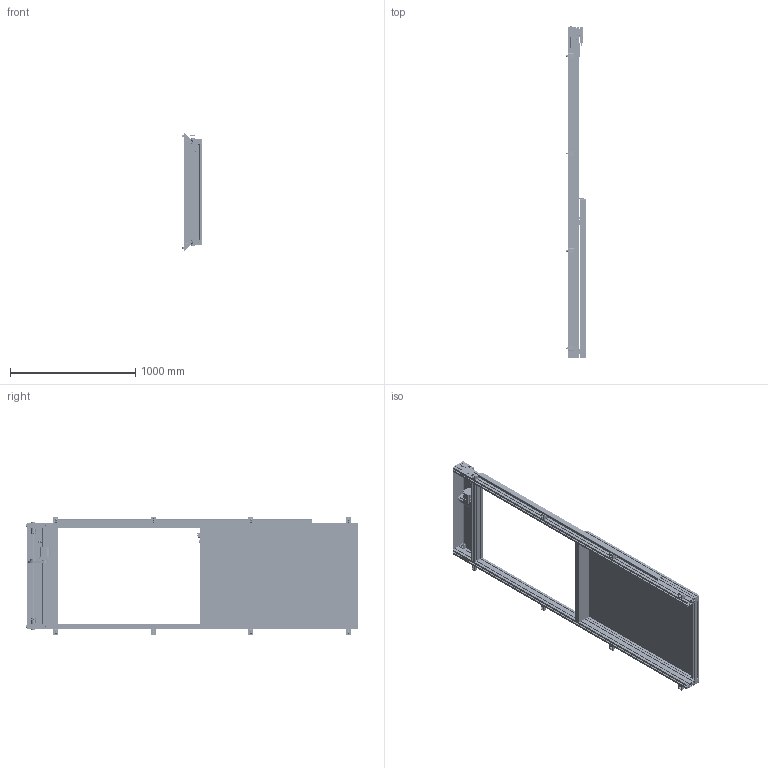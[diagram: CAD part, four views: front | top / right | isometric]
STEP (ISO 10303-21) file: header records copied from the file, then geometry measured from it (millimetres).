
FILE_DESCRIPTION(/* description */ (''),/* implementation_level */ '2;1');
FILE_NAME(/* name */ 'MT111323-1.stp',/* time_stamp */ '2024-04-05T08:11:13-04:00',/* author */ ('amoles'),/* organization */ (''),/* preprocessor_version */ 'ST-DEVELOPER v19.2',/* originating_system */ 'Autodesk Inventor 2024',/* authorisation */ '');
FILE_SCHEMA (('AUTOMOTIVE_DESIGN { 1 0 10303 214 3 1 1 }'));
Products named in the file (83): MT111323-1; SP060112-1-1 POST 45X90 UL; 21.1772 COUNTERWEIGHT 45; 21.1711 ; 21.1711 FIXING KIT FOR CHAIN COUNTERWEIGHTED SIDE RUBBER WASHER; 21.1123; SP060112-1 DOOR ASSY; SP060112-6 DOOR HORI; SP060112-4 DOOR VERT; SP060112-7 DOOR PANEL; 21.1712/9; 21.1506 ; 21.1330; 21.1712/1; 21.1712/9 ; 21.1712 DOOR CHAIN CLAMPING DEVICE CHAIN ANCHOR; 21.1713_1 CONNECTING LINK 04B; 21.1713_1 CONNECTING LINK 04B BODY WITH PINS; Combine3; 21.1713_1 CONNECTING LINK 04B CLIP; 21.1713 ; 21.1713 CHAIN; 21.9200 ; 21.9200 /1; 21.1237 ; 21.1320; 21.0020; 21.0020 POWER-LOCK SF SHORT BODY; 21.1492 POWER-LOCK SF TORX SCREW; 21.1301; 22.1004 END CAP 45X45 BLACK; END CAP DOWEL BLACK; 22.1004 END CAP 45X45 BLACK_1; 21.2308 Magnetic Plate S; 21.2308_Magnetic_Plate_S; 21.1501; 21.1310/2; MT111323-1_002; 21.1232 ; SP060112-1-2 45X32 UL HOR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
Assembly tree (138 placements, depth 6):
  MT111323-1
    SP060112-1-1 POST 45X90 UL  x2
    21.1772 COUNTERWEIGHT 45  x2
    21.1711   x2
      21.1712 DOOR CHAIN CLAMPING DEVICE CHAIN ANCHOR
      21.1711 FIXING KIT FOR CHAIN COUNTERWEIGHTED SIDE RUBBER WASHER
      21.1123
      21.1713_1 CONNECTING LINK 04B
        21.1713_1 CONNECTING LINK 04B BODY WITH PINS
        Combine3
        21.1713_1 CONNECTING LINK 04B CLIP
    SP060112-1 DOOR ASSY
      SP060112-4 DOOR VERT  x2
      SP060112-6 DOOR HORI  x2
      SP060112-7 DOOR PANEL
      21.1712/9  x2
        21.1330
        21.1712/1
          21.1712/9 
          21.1712 DOOR CHAIN CLAMPING DEVICE CHAIN ANCHOR
          21.1713_1 CONNECTING LINK 04B
            21.1713_1 CONNECTING LINK 04B BODY WITH PINS
            Combine3
            21.1713_1 CONNECTING LINK 04B CLIP
      21.9200   x4
        21.9200 /1
        21.1237 
        21.1320
      21.1713   x2
        21.1713 CHAIN
      22.1004 END CAP 45X45 BLACK  x4
        END CAP DOWEL BLACK
        22.1004 END CAP 45X45 BLACK_1
      21.0020  x2
        21.0020 POWER-LOCK SF SHORT BODY
        21.1492 POWER-LOCK SF TORX SCREW
        21.1301
      21.2308 Magnetic Plate S
        21.2308_Magnetic_Plate_S
        21.1310/2  x2
      MT111323-1_002
      21.1232   x2
    SP060112-1-2 45X32 UL HOR
    21.1774 CHAIN PULLEY 32_Custom
      MT111323-1_005
      MT020516-1_200
      6384K348  x2
      MT111323-1_201
      92908A240
      21.1500
      21.1029  x3
        21.1029/1
        21.1303
      91313A122
      2764K311_Servomotor Precision Flexible Shaft Coupling
    MT111323-1_003
    21.1349_7 ANGLE 45 GD-Z WITH CAP  x8
      21.1349 ANGLE 45 GD-Z
      21.1280 
      21.1127 
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Bounding box: 155.3 x 2651.14 x 940 mm (x, y, z)
Volume: 17501102.1 mm3; surface area: 13587541.5 mm2
Topology: 326 solids, 326 shells, 17279 faces, 48156 edges, 31867 vertices
Faces by surface type: plane 9020, cylinder 7017, cone 802, torus 203, bspline 173, sphere 64
Full cylindrical faces by diameter (mm): 1.576 x16, 1.85 x60, 1.854 x24, 2 x4, 2.34 x60, 2.35 x16, 2.459 x2, 2.75 x52, 3 x94, 3.091 x80, 3.251 x2, 4 x108, 4.13 x1, 4.3 x2, 4.496 x2, 4.5 x4, 4.7 x104, 4.928 x4, 5 x19, 5.1 x2, 5.2 x2, 5.5 x16, 6 x16, 6.16 x48, 6.35 x104, 6.376 x20, 6.6 x4, 6.647 x14, 7 x2, 8 x82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
Entity records: 466319 total; most frequent: CARTESIAN_POINT 127255, ORIENTED_EDGE 71696, DIRECTION 70352, EDGE_CURVE 35848, AXIS2_PLACEMENT_3D 24173, VERTEX_POINT 23739, LINE 22006, VECTOR 22006
